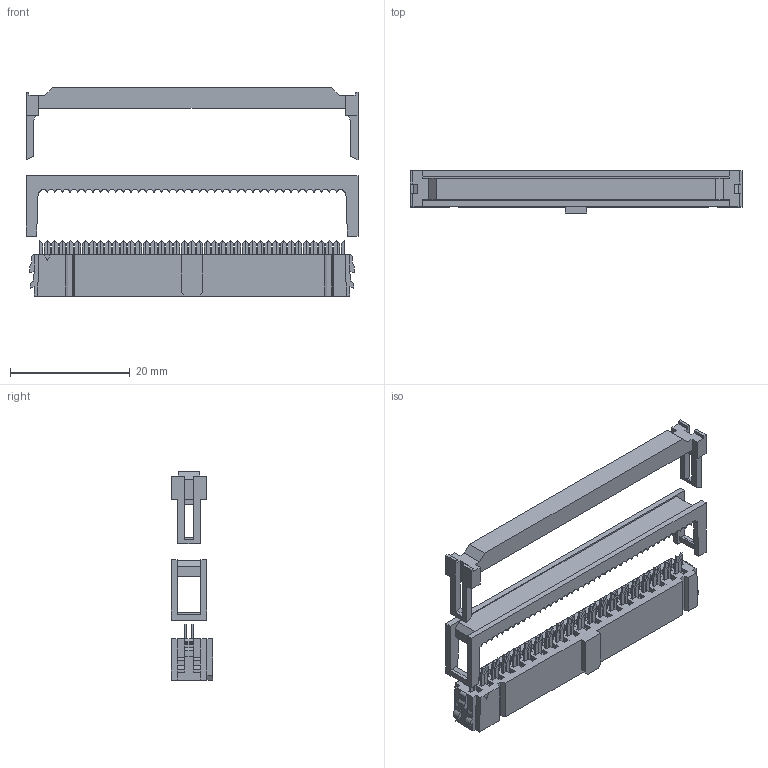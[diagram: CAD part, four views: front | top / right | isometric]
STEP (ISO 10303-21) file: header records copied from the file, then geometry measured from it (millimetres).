
FILE_DESCRIPTION (( 'STEP AP203' ), '1' );
FILE_NAME ('1001-40C00B1A-1141029.STEP', '2025-10-29T06:55:11', ( '' ), ( '' ), 'SwSTEP 2.0', 'SolidWorks 2020', '' );
FILE_SCHEMA (( 'CONFIG_CONTROL_DESIGN' ));
Length unit declared in the file: millimetre
Products named in the file (2): 1001-40C00B1A-1141029
Assembly tree (1 placements, depth 2):
  1001-40C00B1A-1141029
    1001-40C00B1A-1141029
Bounding box: 55.34 x 7 x 34.7 mm (x, y, z)
Volume: 3290 mm3; surface area: 7089.5 mm2
Topology: 43 solids, 43 shells, 3676 faces, 10236 edges, 6578 vertices
Faces by surface type: plane 2257, bspline 743, cylinder 676
Entity records: 135041 total; most frequent: CARTESIAN_POINT 45696, ORIENTED_EDGE 20192, DIRECTION 16257, EDGE_CURVE 10096, LINE 6809, VECTOR 6809, VERTEX_POINT 6578, AXIS2_PLACEMENT_3D 4724
